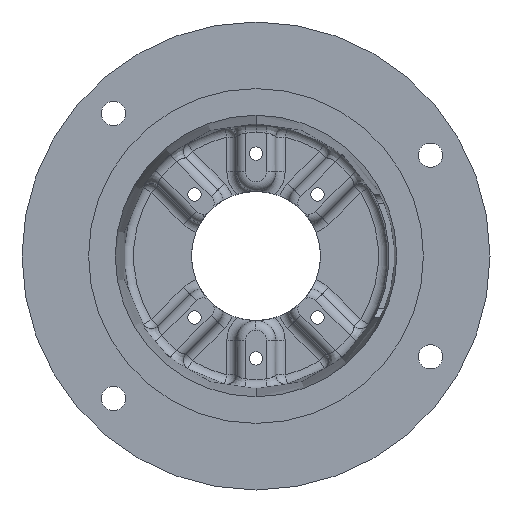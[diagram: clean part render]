
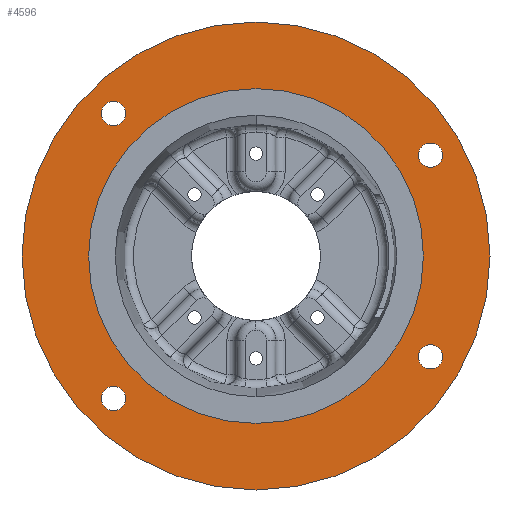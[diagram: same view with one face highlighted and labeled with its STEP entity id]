
A CAD part, front view. The second image highlights one B-rep face of the part: STEP entity #4596.
In plain terms, the highlighted planar face has unit normal (0, -1, 0).
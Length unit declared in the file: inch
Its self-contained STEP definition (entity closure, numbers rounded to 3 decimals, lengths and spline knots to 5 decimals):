
#6 = CARTESIAN_POINT ( 'NONE',  ( 0., 0., -3.2195 ) ) ;
#21 = AXIS2_PLACEMENT_3D ( 'NONE', #5716, #2417, #6259 ) ;
#80 = DIRECTION ( 'NONE',  ( 0., 0., -1. ) ) ;
#224 = DIRECTION ( 'NONE',  ( 0., 0., -1. ) ) ;
#242 = DIRECTION ( 'NONE',  ( 0., 0., -1. ) ) ;
#244 = ORIENTED_EDGE ( 'NONE', *, *, #4178, .T. ) ;
#327 = CIRCLE ( 'NONE', #837, 4.5 ) ;
#392 = DIRECTION ( 'NONE',  ( 0., 1., 0. ) ) ;
#480 = DIRECTION ( 'NONE',  ( 0., 0., -1. ) ) ;
#757 = VERTEX_POINT ( 'NONE', #3721 ) ;
#777 = EDGE_CURVE ( 'NONE', #3770, #5934, #6988, .T. ) ;
#781 = CARTESIAN_POINT ( 'NONE',  ( -2.74004, 0., 2.97441 ) ) ;
#791 = ORIENTED_EDGE ( 'NONE', *, *, #1379, .T. ) ;
#825 = ORIENTED_EDGE ( 'NONE', *, *, #5883, .F. ) ;
#837 = AXIS2_PLACEMENT_3D ( 'NONE', #6848, #3524, #242 ) ;
#1120 = ORIENTED_EDGE ( 'NONE', *, *, #7143, .F. ) ;
#1183 = CARTESIAN_POINT ( 'NONE',  ( 3.35585, 0., -1.9375 ) ) ;
#1379 = EDGE_CURVE ( 'NONE', #3071, #3692, #327, .T. ) ;
#1478 = CARTESIAN_POINT ( 'NONE',  ( 0., 0., -4.5 ) ) ;
#1509 = EDGE_LOOP ( 'NONE', ( #6446, #4272 ) ) ;
#1530 = CIRCLE ( 'NONE', #2505, 3.2195 ) ;
#1728 = DIRECTION ( 'NONE',  ( 0., 0., -1. ) ) ;
#1736 = DIRECTION ( 'NONE',  ( 0., -1., 0. ) ) ;
#1818 = CARTESIAN_POINT ( 'NONE',  ( -2.74004, 0., -2.50566 ) ) ;
#1954 = EDGE_CURVE ( 'NONE', #4445, #2055, #1530, .T. ) ;
#1988 = AXIS2_PLACEMENT_3D ( 'NONE', #5201, #5761, #2560 ) ;
#2055 = VERTEX_POINT ( 'NONE', #6 ) ;
#2089 = AXIS2_PLACEMENT_3D ( 'NONE', #6469, #3167, #7049 ) ;
#2219 = FACE_BOUND ( 'NONE', #3138, .T. ) ;
#2386 = VERTEX_POINT ( 'NONE', #3639 ) ;
#2399 = FACE_BOUND ( 'NONE', #4773, .T. ) ;
#2417 = DIRECTION ( 'NONE',  ( 0., -1., 0. ) ) ;
#2462 = AXIS2_PLACEMENT_3D ( 'NONE', #2933, #6797, #3469 ) ;
#2467 = EDGE_CURVE ( 'NONE', #3619, #2386, #3850, .T. ) ;
#2505 = AXIS2_PLACEMENT_3D ( 'NONE', #5979, #2685, #6547 ) ;
#2560 = DIRECTION ( 'NONE',  ( 0., 0., -1. ) ) ;
#2685 = DIRECTION ( 'NONE',  ( 0., -1., 0. ) ) ;
#2752 = EDGE_CURVE ( 'NONE', #4220, #5222, #5405, .T. ) ;
#2833 = EDGE_CURVE ( 'NONE', #5578, #757, #6489, .T. ) ;
#2845 = EDGE_CURVE ( 'NONE', #5222, #4220, #5203, .T. ) ;
#2929 = DIRECTION ( 'NONE',  ( 0., -1., 0. ) ) ;
#2933 = CARTESIAN_POINT ( 'NONE',  ( 3.35585, 0., -1.9375 ) ) ;
#3071 = VERTEX_POINT ( 'NONE', #1478 ) ;
#3105 = PLANE ( 'NONE',  #7050 ) ;
#3138 = EDGE_LOOP ( 'NONE', ( #5677, #7010 ) ) ;
#3167 = DIRECTION ( 'NONE',  ( 0., -1., 0. ) ) ;
#3354 = DIRECTION ( 'NONE',  ( 0., -1., 0. ) ) ;
#3366 = AXIS2_PLACEMENT_3D ( 'NONE', #6224, #2929, #6793 ) ;
#3419 = ORIENTED_EDGE ( 'NONE', *, *, #1954, .F. ) ;
#3469 = DIRECTION ( 'NONE',  ( 0., 0., -1. ) ) ;
#3499 = DIRECTION ( 'NONE',  ( 0., -1., 0. ) ) ;
#3524 = DIRECTION ( 'NONE',  ( 0., -1., 0. ) ) ;
#3588 = EDGE_LOOP ( 'NONE', ( #6430, #4101 ) ) ;
#3619 = VERTEX_POINT ( 'NONE', #781 ) ;
#3639 = CARTESIAN_POINT ( 'NONE',  ( -2.74004, 0., 2.50566 ) ) ;
#3648 = CIRCLE ( 'NONE', #3366, 3.2195 ) ;
#3680 = FACE_BOUND ( 'NONE', #1509, .T. ) ;
#3692 = VERTEX_POINT ( 'NONE', #4578 ) ;
#3717 = CARTESIAN_POINT ( 'NONE',  ( 3.35585, 0., 1.70313 ) ) ;
#3721 = CARTESIAN_POINT ( 'NONE',  ( 3.35585, 0., 2.17188 ) ) ;
#3770 = VERTEX_POINT ( 'NONE', #6836 ) ;
#3781 = DIRECTION ( 'NONE',  ( 0., -1., 0. ) ) ;
#3850 = CIRCLE ( 'NONE', #21, 0.23438 ) ;
#4101 = ORIENTED_EDGE ( 'NONE', *, *, #2752, .F. ) ;
#4178 = EDGE_CURVE ( 'NONE', #3692, #3071, #5248, .T. ) ;
#4220 = VERTEX_POINT ( 'NONE', #4769 ) ;
#4231 = CARTESIAN_POINT ( 'NONE',  ( -4.5, 0., 0. ) ) ;
#4249 = DIRECTION ( 'NONE',  ( 0., 0., 1. ) ) ;
#4272 = ORIENTED_EDGE ( 'NONE', *, *, #2467, .F. ) ;
#4404 = AXIS2_PLACEMENT_3D ( 'NONE', #5026, #1736, #5603 ) ;
#4445 = VERTEX_POINT ( 'NONE', #4581 ) ;
#4575 = CARTESIAN_POINT ( 'NONE',  ( 3.35585, 0., -2.17187 ) ) ;
#4578 = CARTESIAN_POINT ( 'NONE',  ( 0., 0., 4.5 ) ) ;
#4581 = CARTESIAN_POINT ( 'NONE',  ( 0., 0., 3.2195 ) ) ;
#4596 = ADVANCED_FACE ( 'NONE', ( #2219, #6623, #2399, #3680, #6439, #4969 ), #3105, .F. ) ;
#4673 = CIRCLE ( 'NONE', #2089, 0.23437 ) ;
#4769 = CARTESIAN_POINT ( 'NONE',  ( 3.35585, 0., -1.70312 ) ) ;
#4773 = EDGE_LOOP ( 'NONE', ( #825, #3419 ) ) ;
#4946 = EDGE_LOOP ( 'NONE', ( #791, #244 ) ) ;
#4969 = FACE_BOUND ( 'NONE', #3588, .T. ) ;
#5012 = DIRECTION ( 'NONE',  ( 0., -1., 0. ) ) ;
#5026 = CARTESIAN_POINT ( 'NONE',  ( 3.35585, 0., 1.9375 ) ) ;
#5035 = AXIS2_PLACEMENT_3D ( 'NONE', #6668, #3354, #80 ) ;
#5201 = CARTESIAN_POINT ( 'NONE',  ( 0., 0., 0. ) ) ;
#5203 = CIRCLE ( 'NONE', #6518, 0.23438 ) ;
#5222 = VERTEX_POINT ( 'NONE', #4575 ) ;
#5248 = CIRCLE ( 'NONE', #1988, 4.5 ) ;
#5306 = AXIS2_PLACEMENT_3D ( 'NONE', #7103, #3781, #480 ) ;
#5405 = CIRCLE ( 'NONE', #2462, 0.23438 ) ;
#5438 = EDGE_CURVE ( 'NONE', #757, #5578, #6256, .T. ) ;
#5551 = CIRCLE ( 'NONE', #6295, 0.23438 ) ;
#5578 = VERTEX_POINT ( 'NONE', #3717 ) ;
#5603 = DIRECTION ( 'NONE',  ( 0., 0., -1. ) ) ;
#5677 = ORIENTED_EDGE ( 'NONE', *, *, #2833, .F. ) ;
#5716 = CARTESIAN_POINT ( 'NONE',  ( -2.74004, 0., 2.74004 ) ) ;
#5761 = DIRECTION ( 'NONE',  ( 0., -1., 0. ) ) ;
#5764 = EDGE_LOOP ( 'NONE', ( #6143, #1120 ) ) ;
#5883 = EDGE_CURVE ( 'NONE', #2055, #4445, #3648, .T. ) ;
#5934 = VERTEX_POINT ( 'NONE', #1818 ) ;
#5979 = CARTESIAN_POINT ( 'NONE',  ( 0., 0., 0. ) ) ;
#6143 = ORIENTED_EDGE ( 'NONE', *, *, #777, .F. ) ;
#6224 = CARTESIAN_POINT ( 'NONE',  ( 0., 0., 0. ) ) ;
#6256 = CIRCLE ( 'NONE', #4404, 0.23438 ) ;
#6259 = DIRECTION ( 'NONE',  ( 0., 0., -1. ) ) ;
#6295 = AXIS2_PLACEMENT_3D ( 'NONE', #6831, #3499, #224 ) ;
#6430 = ORIENTED_EDGE ( 'NONE', *, *, #2845, .F. ) ;
#6439 = FACE_BOUND ( 'NONE', #5764, .T. ) ;
#6446 = ORIENTED_EDGE ( 'NONE', *, *, #6971, .F. ) ;
#6469 = CARTESIAN_POINT ( 'NONE',  ( -2.74004, 0., -2.74004 ) ) ;
#6489 = CIRCLE ( 'NONE', #5035, 0.23438 ) ;
#6518 = AXIS2_PLACEMENT_3D ( 'NONE', #1183, #5012, #1728 ) ;
#6547 = DIRECTION ( 'NONE',  ( 0., 0., -1. ) ) ;
#6623 = FACE_OUTER_BOUND ( 'NONE', #4946, .T. ) ;
#6668 = CARTESIAN_POINT ( 'NONE',  ( 3.35585, 0., 1.9375 ) ) ;
#6793 = DIRECTION ( 'NONE',  ( 0., 0., -1. ) ) ;
#6797 = DIRECTION ( 'NONE',  ( 0., -1., 0. ) ) ;
#6831 = CARTESIAN_POINT ( 'NONE',  ( -2.74004, 0., 2.74004 ) ) ;
#6836 = CARTESIAN_POINT ( 'NONE',  ( -2.74004, 0., -2.97441 ) ) ;
#6848 = CARTESIAN_POINT ( 'NONE',  ( 0., 0., 0. ) ) ;
#6971 = EDGE_CURVE ( 'NONE', #2386, #3619, #5551, .T. ) ;
#6988 = CIRCLE ( 'NONE', #5306, 0.23437 ) ;
#7010 = ORIENTED_EDGE ( 'NONE', *, *, #5438, .F. ) ;
#7049 = DIRECTION ( 'NONE',  ( 0., 0., -1. ) ) ;
#7050 = AXIS2_PLACEMENT_3D ( 'NONE', #4231, #392, #4249 ) ;
#7103 = CARTESIAN_POINT ( 'NONE',  ( -2.74004, 0., -2.74004 ) ) ;
#7143 = EDGE_CURVE ( 'NONE', #5934, #3770, #4673, .T. ) ;
